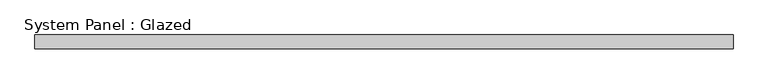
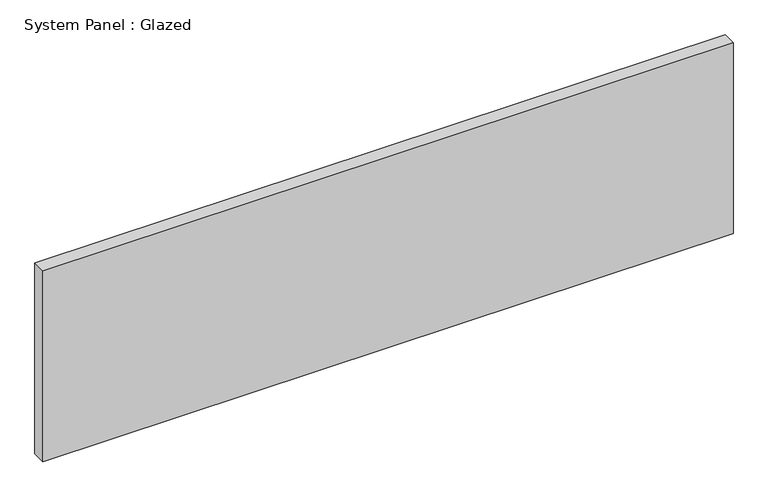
"""IFC4 building model written with IfcOpenShell, lengths in millimetres: plate geometry, System Panel : Glazed."""

from ifc_helpers import new_model, si_unit, origin, origin_with_axes, place, context, project, spatial, polyline, outline, extrude, source, transform, mapped, element, save


def system_panel_glazed_ca1a098d(model_context):
    return source(origin(), model_context, "Body", "SweptSolid", [
        extrude(outline(polyline([(629.7083334, -44.45), (-629.7083334, -44.45), (-629.7083334, -19.05), (629.7083334, -19.05), (629.7083334, -44.45)])), origin_with_axes(), (0.0, 0.0, 1.0), 368.3),
    ])


if __name__ == "__main__":
    model = new_model("IFC4")
    model_context = context("Model", 3, world=origin())
    ifc_project = project(units=[si_unit("LENGTHUNIT", "METRE", prefix="MILLI")], contexts=[model_context])
    site = spatial("IfcSite", under=ifc_project)
    building = spatial("IfcBuilding", under=site)
    placement = place(None, origin())
    system_panel_glazed_shape = system_panel_glazed_ca1a098d(model_context)
    element("IfcPlate", 1, ObjectType="System Panel : Glazed", at=placement, inside=building, context=model_context, shape_type="MappedRepresentation", body=[
        mapped(system_panel_glazed_shape, transform((0.0, 0.0, 0.0), x_axis=(1.0, 0.0, 0.0), y_axis=(0.0, 1.0, 0.0), z_axis=(0.0, 0.0, 1.0))),
    ])
    save(model, "model.ifc")
